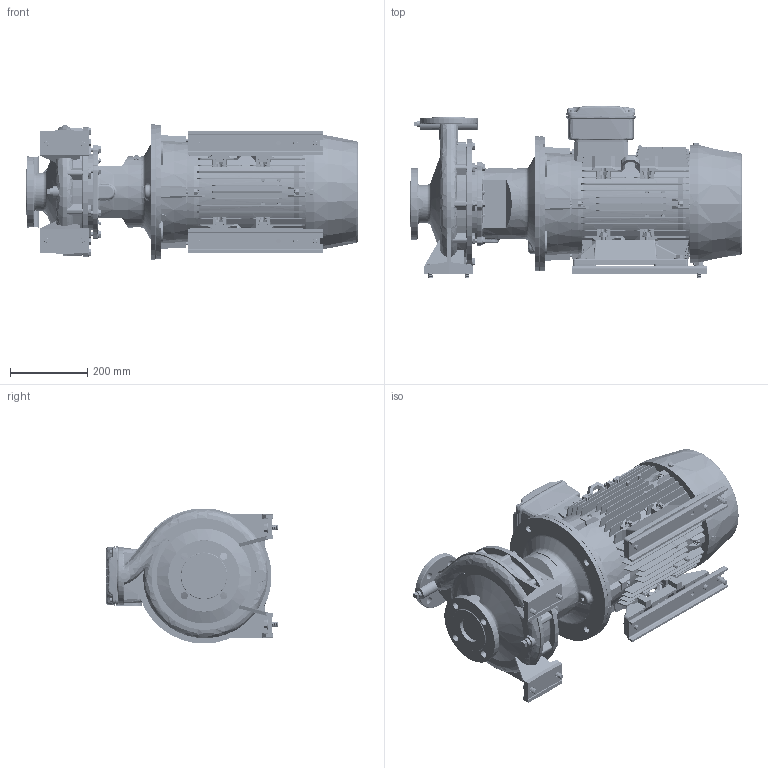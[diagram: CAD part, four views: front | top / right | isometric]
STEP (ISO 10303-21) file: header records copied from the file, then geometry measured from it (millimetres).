
FILE_DESCRIPTION (( 'STEP AP214' ), '1' );
FILE_NAME ('GSD2 40-250_15.0 & 18.5_(160ML)_W21.STEP', '2026-07-02T05:44:50', ( '' ), ( '' ), 'SwSTEP 2.0', 'SolidWorks 2024', '' );
FILE_SCHEMA (( 'AUTOMOTIVE_DESIGN' ));
Length unit declared in the file: millimetre
Products named in the file (9): Parametric bolt and washer_SFT-A301B; GSD2  40-250_15.0 & 18.5_(160ML)_W21; Parametric bolt_SFT-A301B; 160M_L_ALIE3_W21T_B35; 210_254 x 20 - 271472113; Parametric bolt and washer_SFT-A299B; Parametric Flat Washer_M12; 40-250-160M_L; Parametric bolt_SFT-A299B
Assembly tree (18 placements, depth 3):
  GSD2  40-250_15.0 & 18.5_(160ML)_W21
    40-250-160M_L
    210_254 x 20 - 271472113  x2
    Parametric bolt and washer_SFT-A299B  x4
      Parametric bolt_SFT-A299B
      Parametric Flat Washer_M12
    Parametric bolt and washer_SFT-A301B  x6
      Parametric bolt_SFT-A301B
      Parametric Flat Washer_M12
    160M_L_ALIE3_W21T_B35
Bounding box: 860.3 x 447.03 x 350 mm (x, y, z)
Volume: 45149066.5 mm3; surface area: 2951444.1 mm2
Topology: 71 solids, 77 shells, 6508 faces, 16876 edges, 10961 vertices
Faces by surface type: plane 3859, cylinder 1325, cone 615, bspline 443, torus 250, sphere 16
Entity records: 225735 total; most frequent: CARTESIAN_POINT 84428, ORIENTED_EDGE 30906, DIRECTION 26354, EDGE_CURVE 15453, VERTEX_POINT 10050, LINE 9714, VECTOR 9714, AXIS2_PLACEMENT_3D 8320
